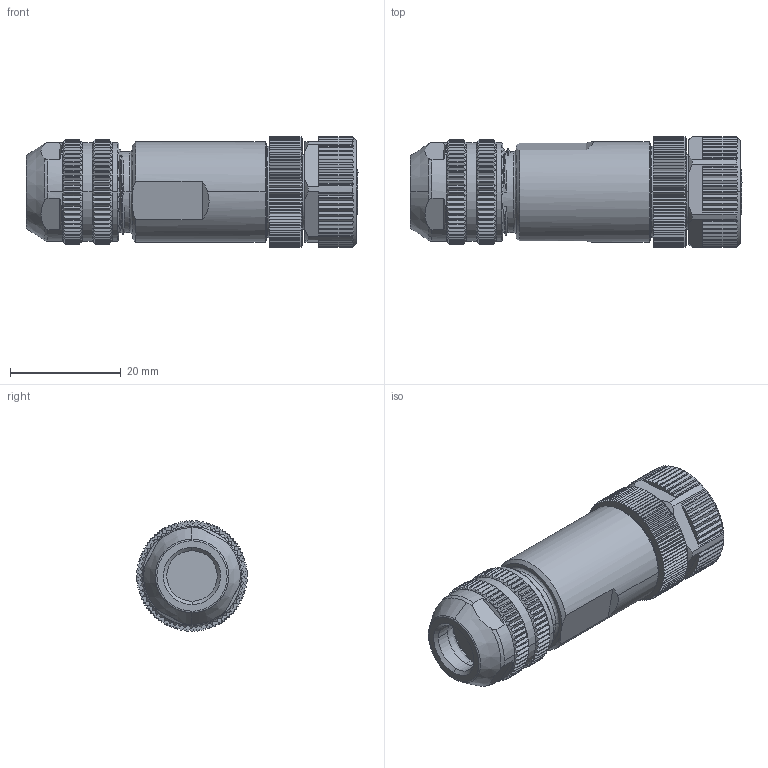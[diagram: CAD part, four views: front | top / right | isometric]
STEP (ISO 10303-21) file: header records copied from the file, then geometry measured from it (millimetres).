
FILE_DESCRIPTION (( 'STEP AP203' ), '1' );
FILE_NAME ('64F441.STEP', '2023-08-18T11:29:20', ( '' ), ( '' ), 'SwSTEP 2.0', 'SolidWorks 2016', '' );
FILE_SCHEMA (( 'CONFIG_CONTROL_DESIGN' ));
Length unit declared in the file: millimetre
Products named in the file (1): 64F441
Bounding box: 60 x 20 x 20 mm (x, y, z)
Volume: 13207.1 mm3; surface area: 7129 mm2
Topology: 1 solids, 7 shells, 1349 faces, 4058 edges, 2738 vertices
Faces by surface type: plane 688, cylinder 423, cone 196, bspline 37, torus 3, sphere 2
Entity records: 61032 total; most frequent: CARTESIAN_POINT 26840, ORIENTED_EDGE 8090, DIRECTION 5930, EDGE_CURVE 4045, VERTEX_POINT 2736, AXIS2_PLACEMENT_3D 2116, VECTOR 1698, LINE 1698
